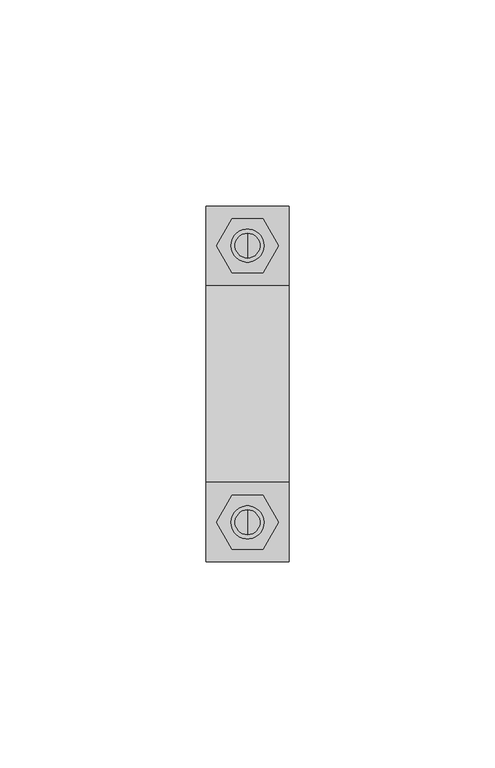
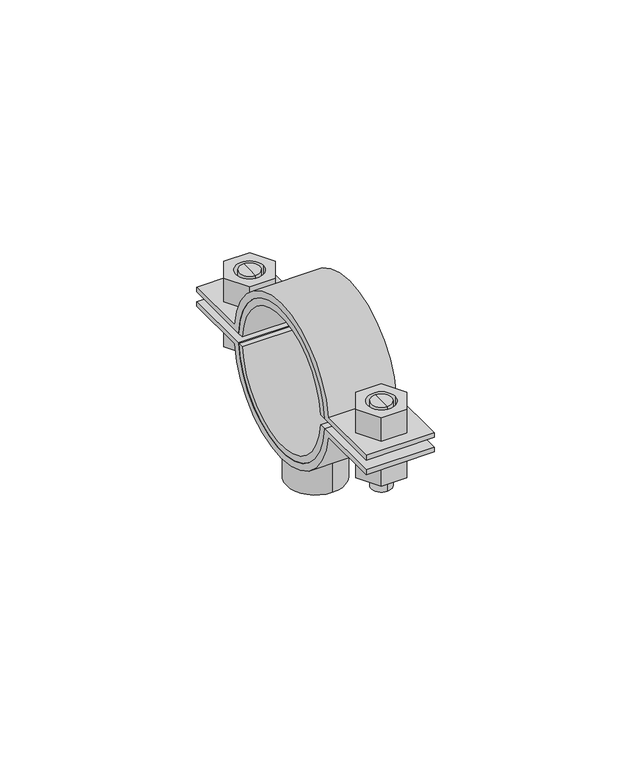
"""IFC4 building model written with IfcOpenShell, lengths in millimetres: valve geometry, Superfix DG2 Clamp Extra + : Superfix DG2 Clamp Extra +."""

from ifc_helpers import new_model, si_unit, point, frame, frame_2d, origin, origin_2d, place, context, project, spatial, polyline, circle_curve, trimmed, segment, composite_curve, outline, extrude, source, transform, mapped, element, save
from ifc_brep_helpers import plane_surface, cylinder_surface, advanced_brep


def valve_9a7a2dc0(model_context):
    return source(origin(), model_context, "Body", "SolidModel", [
        advanced_brep(
        [(0.0, 36.5, 334.4), (0.0, 30.5, 334.4), (0.0, 30.5, 348.5), (0.0, 36.5, 348.5), (0.0, 33.5, 334.4)],
        [
            (0, 1, circle_curve(frame((0.0, 33.5, 334.4), z_axis=(0.0, 0.0, 1.0), x_axis=(0.0, 1.0, 0.0)), 3.0)),
            (1, 2),
            (2, 3, circle_curve(frame((0.0, 33.5, 348.5), z_axis=(0.0, 0.0, -1.0), x_axis=(0.0, 1.0, 0.0)), 3.0)),
            (3, 0),
            (1, 0, circle_curve(frame((0.0, 33.5, 334.4), z_axis=(0.0, 0.0, 1.0), x_axis=(0.0, 1.0, 0.0)), 3.0)),
            (3, 2, circle_curve(frame((0.0, 33.5, 348.5), z_axis=(0.0, 0.0, -1.0), x_axis=(0.0, 1.0, 0.0)), 3.0)),
            (0, 4),
            (4, 1),
        ],
        [
            cylinder_surface(frame((0.0, 33.5, 348.2806094), z_axis=(0.0, 0.0, 1.0), x_axis=(0.0, 1.0, 0.0)), 3.0),
            plane_surface(frame((0.0, 33.5, 334.4), z_axis=(0.0, 0.0, -1.0), x_axis=(0.0, 1.0, 0.0))),
            plane_surface(frame((13.75, -43.0, 348.5), z_axis=(0.0, 0.0, 1.0), x_axis=(-1.0, 0.0, 0.0))),
        ],
        [
            (0, [[1, 2, 3, 4]]),
            (0, [[5, -4, 6, -2]]),
            (1, [[-1, 7, 8]]),
            (1, [[-5, -8, -7]]),
            (2, [[-3, -6]]),
        ],
    ),
        advanced_brep(
        [(0.0, 30.5, 360.6), (0.0, 36.5, 360.6), (0.0, 36.5, 351.5), (0.0, 30.5, 351.5), (0.0, 33.5, 360.6)],
        [
            (0, 1, circle_curve(frame((0.0, 33.5, 360.6), z_axis=(0.0, 0.0, -1.0), x_axis=(0.0, 1.0, 0.0)), 3.0)),
            (1, 2),
            (2, 3, circle_curve(frame((0.0, 33.5, 351.5), z_axis=(0.0, 0.0, 1.0), x_axis=(0.0, 1.0, 0.0)), 3.0)),
            (3, 0),
            (1, 0, circle_curve(frame((0.0, 33.5, 360.6), z_axis=(0.0, 0.0, -1.0), x_axis=(0.0, 1.0, 0.0)), 3.0)),
            (3, 2, circle_curve(frame((0.0, 33.5, 351.5), z_axis=(0.0, 0.0, 1.0), x_axis=(0.0, 1.0, 0.0)), 3.0)),
            (0, 4),
            (4, 1),
        ],
        [
            cylinder_surface(frame((0.0, 33.5, 348.2806094), z_axis=(0.0, 0.0, 1.0), x_axis=(0.0, 1.0, 0.0)), 3.0),
            plane_surface(frame((0.0, 33.5, 360.6), z_axis=(0.0, 0.0, 1.0), x_axis=(0.0, 1.0, 0.0))),
            plane_surface(frame((13.75, 43.0, 351.5), z_axis=(0.0, 0.0, -1.0), x_axis=(-1.0, 0.0, 0.0))),
        ],
        [
            (0, [[1, 2, 3, 4]]),
            (0, [[5, -4, 6, -2]]),
            (1, [[-1, 7, 8]]),
            (1, [[-5, -8, -7]]),
            (2, [[-3, -6]]),
        ],
    ),
        advanced_brep(
        [(0.0, -36.5, 360.6), (0.0, -30.5, 360.6), (0.0, -30.5, 351.5), (0.0, -36.5, 351.5), (0.0, -33.5, 360.6)],
        [
            (0, 1, circle_curve(frame((0.0, -33.5, 360.6), z_axis=(0.0, 0.0, -1.0), x_axis=(0.0, -1.0, 0.0)), 3.0)),
            (1, 2),
            (2, 3, circle_curve(frame((0.0, -33.5, 351.5), z_axis=(0.0, 0.0, 1.0), x_axis=(0.0, -1.0, 0.0)), 3.0)),
            (3, 0),
            (1, 0, circle_curve(frame((0.0, -33.5, 360.6), z_axis=(0.0, 0.0, -1.0), x_axis=(0.0, -1.0, 0.0)), 3.0)),
            (3, 2, circle_curve(frame((0.0, -33.5, 351.5), z_axis=(0.0, 0.0, 1.0), x_axis=(0.0, -1.0, 0.0)), 3.0)),
            (0, 4),
            (4, 1),
        ],
        [
            cylinder_surface(frame((0.0, -33.5, 348.2806094), z_axis=(0.0, 0.0, -1.0), x_axis=(0.0, -1.0, 0.0)), 3.0),
            plane_surface(frame((0.0, -33.5, 360.6), z_axis=(0.0, 0.0, 1.0), x_axis=(0.0, -1.0, 0.0))),
            plane_surface(frame((13.75, 43.0, 351.5), z_axis=(0.0, 0.0, -1.0), x_axis=(-1.0, 0.0, 0.0))),
        ],
        [
            (0, [[1, 2, 3, 4]]),
            (0, [[5, -4, 6, -2]]),
            (1, [[-1, 7, 8]]),
            (1, [[-5, -8, -7]]),
            (2, [[-3, -6]]),
        ],
    ),
        advanced_brep(
        [(0.0, -30.5, 334.4), (0.0, -36.5, 334.4), (0.0, -36.5, 348.5), (0.0, -30.5, 348.5), (0.0, -33.5, 334.4)],
        [
            (0, 1, circle_curve(frame((0.0, -33.5, 334.4), z_axis=(0.0, 0.0, 1.0), x_axis=(0.0, -1.0, 0.0)), 3.0)),
            (1, 2),
            (2, 3, circle_curve(frame((0.0, -33.5, 348.5), z_axis=(0.0, 0.0, -1.0), x_axis=(0.0, -1.0, 0.0)), 3.0)),
            (3, 0),
            (1, 0, circle_curve(frame((0.0, -33.5, 334.4), z_axis=(0.0, 0.0, 1.0), x_axis=(0.0, -1.0, 0.0)), 3.0)),
            (3, 2, circle_curve(frame((0.0, -33.5, 348.5), z_axis=(0.0, 0.0, -1.0), x_axis=(0.0, -1.0, 0.0)), 3.0)),
            (0, 4),
            (4, 1),
        ],
        [
            cylinder_surface(frame((0.0, -33.5, 348.2806094), z_axis=(0.0, 0.0, -1.0), x_axis=(0.0, -1.0, 0.0)), 3.0),
            plane_surface(frame((0.0, -33.5, 334.4), z_axis=(0.0, 0.0, -1.0), x_axis=(0.0, -1.0, 0.0))),
            plane_surface(frame((13.75, -43.0, 348.5), z_axis=(0.0, 0.0, 1.0), x_axis=(-1.0, 0.0, 0.0))),
        ],
        [
            (0, [[1, 2, 3, 4]]),
            (0, [[5, -4, 6, -2]]),
            (1, [[-1, 7, 8]]),
            (1, [[-5, -8, -7]]),
            (2, [[-3, -6]]),
        ],
    ),
        extrude(outline(composite_curve([segment(trimmed(circle_curve(frame_2d((0.0, 350.0)), 22.0), [point((-21.9488041, 348.5))], [point((21.9488041, 348.5))], True, "CARTESIAN"), True, "CONTINUOUS"), segment(polyline([(21.9488041, 348.5), (43.0, 348.5), (43.0, 347.0), (23.8117618, 347.0)]), True, "CONTINUOUS"), segment(trimmed(circle_curve(frame_2d((0.0, 350.0)), 24.0), [point((23.8117618, 347.0))], [point((-23.8117618, 347.0))], False, "CARTESIAN"), True, "CONTINUOUS"), segment(polyline([(-23.8117618, 347.0), (-43.0, 347.0), (-43.0, 348.5), (-21.9488041, 348.5)]), True, "CONTINUOUS")], self_intersect=False)), frame((-10.0, 0.0, 0.0), z_axis=(1.0, 0.0, 0.0), x_axis=(0.0, 1.0, 0.0)), (0.0, 0.0, 1.0), 20.0),
        extrude(outline(composite_curve([segment(trimmed(circle_curve(frame_2d((0.0, 350.0)), 22.0), [point((21.9488041, 351.5))], [point((-21.9488041, 351.5))], True, "CARTESIAN"), True, "CONTINUOUS"), segment(polyline([(-21.9488041, 351.5), (-43.0, 351.5), (-43.0, 353.0), (-23.8117618, 353.0)]), True, "CONTINUOUS"), segment(trimmed(circle_curve(frame_2d((0.0, 350.0)), 24.0), [point((-23.8117618, 353.0))], [point((23.8117618, 353.0))], False, "CARTESIAN"), True, "CONTINUOUS"), segment(polyline([(23.8117618, 353.0), (43.0, 353.0), (43.0, 351.5), (21.9488041, 351.5)]), True, "CONTINUOUS")], self_intersect=False)), frame((-10.0, 0.0, 0.0), z_axis=(1.0, 0.0, 0.0), x_axis=(0.0, 1.0, 0.0)), (0.0, 0.0, 1.0), 20.0),
        extrude(outline(polyline([(7.5055535, -33.5), (3.7527767, -40.0), (-3.7527767, -40.0), (-7.5055535, -33.5), (-3.7527767, -27.0), (3.7527767, -27.0), (7.5055535, -33.5)]), holes=[composite_curve([segment(trimmed(circle_curve(frame_2d((0.0, -33.5)), 4.0), [point((4.0, -33.5))], [point((-4.0, -33.5))], True, "CARTESIAN"), True, "CONTINUOUS"), segment(trimmed(circle_curve(frame_2d((0.0, -33.5)), 4.0), [point((-4.0, -33.5))], [point((4.0, -33.5))], True, "CARTESIAN"), True, "CONTINUOUS")], self_intersect=False)]), frame((0.0, 0.0, 353.0), z_axis=(0.0, 0.0, 1.0), x_axis=(1.0, 0.0, 0.0)), (0.0, 0.0, 1.0), 7.6),
        extrude(outline(polyline([(7.5055535, 33.5), (3.7527767, 27.0), (-3.7527767, 27.0), (-7.5055535, 33.5), (-3.7527767, 40.0), (3.7527767, 40.0), (7.5055535, 33.5)]), holes=[composite_curve([segment(trimmed(circle_curve(frame_2d((0.0, 33.5)), 4.0), [point((4.0, 33.5))], [point((-4.0, 33.5))], True, "CARTESIAN"), True, "CONTINUOUS"), segment(trimmed(circle_curve(frame_2d((0.0, 33.5)), 4.0), [point((-4.0, 33.5))], [point((4.0, 33.5))], True, "CARTESIAN"), True, "CONTINUOUS")], self_intersect=False)]), frame((0.0, 0.0, 353.0), z_axis=(0.0, 0.0, 1.0), x_axis=(1.0, 0.0, 0.0)), (0.0, 0.0, 1.0), 7.6),
        extrude(outline(polyline([(7.5055535, -33.5), (3.7527767, -40.0), (-3.7527767, -40.0), (-7.5055535, -33.5), (-3.7527767, -27.0), (3.7527767, -27.0), (7.5055535, -33.5)]), holes=[composite_curve([segment(trimmed(circle_curve(frame_2d((0.0, -33.5)), 4.0), [point((4.0, -33.5))], [point((-4.0, -33.5))], True, "CARTESIAN"), True, "CONTINUOUS"), segment(trimmed(circle_curve(frame_2d((0.0, -33.5)), 4.0), [point((-4.0, -33.5))], [point((4.0, -33.5))], True, "CARTESIAN"), True, "CONTINUOUS")], self_intersect=False)]), frame((0.0, 0.0, 339.4), z_axis=(0.0, 0.0, 1.0), x_axis=(1.0, 0.0, 0.0)), (0.0, 0.0, 1.0), 7.6),
        extrude(outline(polyline([(7.5055535, 33.5), (3.7527767, 27.0), (-3.7527767, 27.0), (-7.5055535, 33.5), (-3.7527767, 40.0), (3.7527767, 40.0), (7.5055535, 33.5)]), holes=[composite_curve([segment(trimmed(circle_curve(frame_2d((0.0, 33.5)), 4.0), [point((4.0, 33.5))], [point((-4.0, 33.5))], True, "CARTESIAN"), True, "CONTINUOUS"), segment(trimmed(circle_curve(frame_2d((0.0, 33.5)), 4.0), [point((-4.0, 33.5))], [point((4.0, 33.5))], True, "CARTESIAN"), True, "CONTINUOUS")], self_intersect=False)]), frame((0.0, 0.0, 339.4), z_axis=(0.0, 0.0, 1.0), x_axis=(1.0, 0.0, 0.0)), (0.0, 0.0, 1.0), 7.6),
        extrude(outline(composite_curve([segment(trimmed(circle_curve(origin_2d(), 8.5), [point((0.0, 8.5))], [point((0.0, -8.5))], False, "CARTESIAN"), True, "CONTINUOUS"), segment(trimmed(circle_curve(origin_2d(), 8.5), [point((0.0, -8.5))], [point((0.0, 8.5))], False, "CARTESIAN"), True, "CONTINUOUS")], self_intersect=False), holes=[composite_curve([segment(trimmed(circle_curve(origin_2d(), 5.0), [point((0.0, 5.0))], [point((0.0, -5.0))], True, "CARTESIAN"), True, "CONTINUOUS"), segment(trimmed(circle_curve(origin_2d(), 5.0), [point((0.0, -5.0))], [point((0.0, 5.0))], True, "CARTESIAN"), True, "CONTINUOUS")], self_intersect=False)]), frame((0.0, 0.0, 317.0), z_axis=(0.0, 0.0, 1.0), x_axis=(1.0, 0.0, 0.0)), (0.0, 0.0, 1.0), 11.5),
        extrude(outline(composite_curve([segment(trimmed(circle_curve(frame_2d((0.0, 350.0)), 20.0), [point((19.9436707, 351.5))], [point((-19.9436707, 351.5))], True, "CARTESIAN"), True, "CONTINUOUS"), segment(polyline([(-19.9436707, 351.5), (-21.9488041, 351.5)]), True, "CONTINUOUS"), segment(trimmed(circle_curve(frame_2d((0.0, 350.0)), 22.0), [point((-21.9488041, 351.5))], [point((21.9488041, 351.5))], False, "CARTESIAN"), True, "CONTINUOUS"), segment(polyline([(21.9488041, 351.5), (19.9436707, 351.5)]), True, "CONTINUOUS")], self_intersect=False)), frame((-10.0, 0.0, 0.0), z_axis=(1.0, 0.0, 0.0), x_axis=(0.0, 1.0, 0.0)), (0.0, 0.0, 1.0), 20.0),
        extrude(outline(composite_curve([segment(polyline([(19.9436707, 348.5), (21.9488041, 348.5)]), True, "CONTINUOUS"), segment(trimmed(circle_curve(frame_2d((0.0, 350.0)), 22.0), [point((21.9488041, 348.5))], [point((-21.9488041, 348.5))], False, "CARTESIAN"), True, "CONTINUOUS"), segment(polyline([(-21.9488041, 348.5), (-19.9436707, 348.5)]), True, "CONTINUOUS"), segment(trimmed(circle_curve(frame_2d((0.0, 350.0)), 20.0), [point((-19.9436707, 348.5))], [point((19.9436707, 348.5))], True, "CARTESIAN"), True, "CONTINUOUS")], self_intersect=False)), frame((-10.0, 0.0, 0.0), z_axis=(1.0, 0.0, 0.0), x_axis=(0.0, 1.0, 0.0)), (0.0, 0.0, 1.0), 20.0),
    ])


if __name__ == "__main__":
    model = new_model("IFC4")
    model_context = context("Model", 3, world=origin())
    ifc_project = project(units=[si_unit("LENGTHUNIT", "METRE", prefix="MILLI")], contexts=[model_context])
    site = spatial("IfcSite", under=ifc_project)
    building = spatial("IfcBuilding", under=site)
    placement = place(None, origin())
    valve_shape = valve_9a7a2dc0(model_context)
    element("IfcValve", 1, ObjectType="Superfix DG2 Clamp Extra + : Superfix DG2 Clamp Extra +", at=placement, inside=building, context=model_context, shape_type="MappedRepresentation", body=[
        mapped(valve_shape, transform((0.0, 0.0, 0.0), x_axis=(1.0, 0.0, 0.0), y_axis=(0.0, 1.0, 0.0), z_axis=(0.0, 0.0, 1.0))),
    ])
    save(model, "model.ifc")
